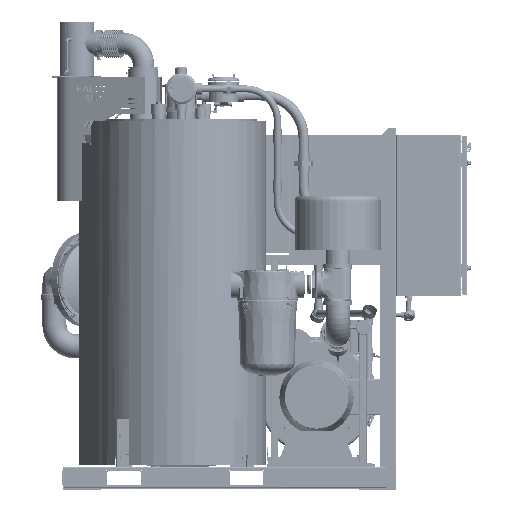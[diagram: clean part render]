
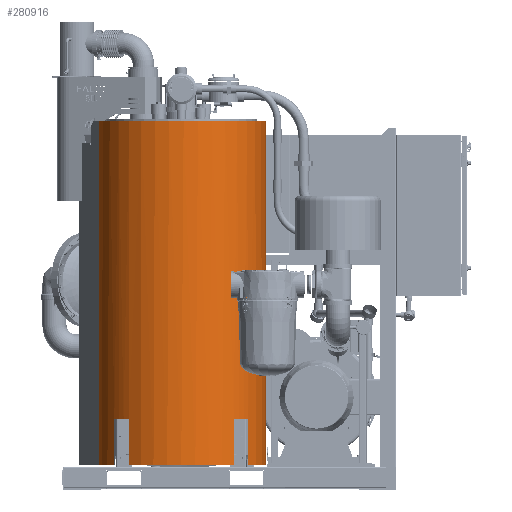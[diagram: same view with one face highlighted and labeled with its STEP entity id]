
A CAD part, top view. The second image highlights one B-rep face of the part: STEP entity #280916.
In plain terms, the highlighted cylindrical face has radius 401.625 mm (diameter 803.25 mm), a partial arc.
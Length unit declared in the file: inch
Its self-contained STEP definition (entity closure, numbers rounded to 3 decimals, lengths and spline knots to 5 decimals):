
#1845 = ORIENTED_EDGE ( 'NONE', *, *, #399140, .T. ) ;
#10452 = CARTESIAN_POINT ( 'NONE',  ( -24.63314, 24.87513, 4.67675 ) ) ;
#20501 = DIRECTION ( 'NONE',  ( -1., 0., 0. ) ) ;
#39900 = CIRCLE ( 'NONE', #308921, 15.812 ) ;
#43519 = VERTEX_POINT ( 'NONE', #106084 ) ;
#58395 = ORIENTED_EDGE ( 'NONE', *, *, #160161, .T. ) ;
#61313 = CARTESIAN_POINT ( 'NONE',  ( -9.2264, -30.62487, 1.11983 ) ) ;
#74991 = VERTEX_POINT ( 'NONE', #304999 ) ;
#80491 = DIRECTION ( 'NONE',  ( 0., 1., 0. ) ) ;
#82211 = DIRECTION ( 'NONE',  ( 0., -1., 0. ) ) ;
#83383 = DIRECTION ( 'NONE',  ( -1., 0., 0. ) ) ;
#83564 = CARTESIAN_POINT ( 'NONE',  ( -9.2264, 24.87513, 1.11983 ) ) ;
#88258 = VERTEX_POINT ( 'NONE', #554094 ) ;
#89413 = VERTEX_POINT ( 'NONE', #544496 ) ;
#103062 = LINE ( 'NONE', #483499, #121581 ) ;
#103374 = VERTEX_POINT ( 'NONE', #276760 ) ;
#104021 = VERTEX_POINT ( 'NONE', #593493 ) ;
#106084 = CARTESIAN_POINT ( 'NONE',  ( -24.63314, -39.12487, 4.67675 ) ) ;
#107557 = EDGE_CURVE ( 'NONE', #43519, #74991, #39900, .T. ) ;
#113088 = VERTEX_POINT ( 'NONE', #189012 ) ;
#121581 = VECTOR ( 'NONE', #146916, 39.37008 ) ;
#128342 = AXIS2_PLACEMENT_3D ( 'NONE', #501885, #495725, #539558 ) ;
#132270 = CARTESIAN_POINT ( 'NONE',  ( -18.98959, -13.03513, 13.55765 ) ) ;
#133241 = DIRECTION ( 'NONE',  ( 0., 1., 0. ) ) ;
#135164 = VERTEX_POINT ( 'NONE', #10452 ) ;
#138220 = CIRCLE ( 'NONE', #128342, 15.812 ) ;
#146916 = DIRECTION ( 'NONE',  ( 0., -1., 0. ) ) ;
#155819 = ORIENTED_EDGE ( 'NONE', *, *, #577843, .T. ) ;
#160161 = EDGE_CURVE ( 'NONE', #89413, #88258, #526270, .T. ) ;
#163719 = CARTESIAN_POINT ( 'NONE',  ( -21.66422, -13.03513, 10.88301 ) ) ;
#172942 = EDGE_LOOP ( 'NONE', ( #266351, #363179, #370495, #318751, #190509, #155819, #1845, #58395, #488591, #194635, #206417, #525138 ) ) ;
#180974 = DIRECTION ( 'NONE',  ( 0., -1., 0. ) ) ;
#183514 = DIRECTION ( 'NONE',  ( 0., -1., 0. ) ) ;
#186857 = CIRCLE ( 'NONE', #445806, 15.812 ) ;
#189012 = CARTESIAN_POINT ( 'NONE',  ( 3.21143, -30.62487, 10.88301 ) ) ;
#190509 = ORIENTED_EDGE ( 'NONE', *, *, #214851, .F. ) ;
#194635 = ORIENTED_EDGE ( 'NONE', *, *, #297797, .T. ) ;
#206417 = ORIENTED_EDGE ( 'NONE', *, *, #468235, .T. ) ;
#209448 = VERTEX_POINT ( 'NONE', #368932 ) ;
#214851 = EDGE_CURVE ( 'NONE', #343531, #74991, #357061, .T. ) ;
#227165 = DIRECTION ( 'NONE',  ( -1., 0., 0. ) ) ;
#227251 = CARTESIAN_POINT ( 'NONE',  ( -9.2264, 24.87513, 1.11983 ) ) ;
#231140 = EDGE_CURVE ( 'NONE', #135164, #209448, #343351, .T. ) ;
#258994 = CIRCLE ( 'NONE', #537741, 15.812 ) ;
#266351 = ORIENTED_EDGE ( 'NONE', *, *, #310092, .F. ) ;
#276760 = CARTESIAN_POINT ( 'NONE',  ( 6.5856, -39.12487, 1.11983 ) ) ;
#276824 = EDGE_CURVE ( 'NONE', #135164, #43519, #103062, .T. ) ;
#280916 = ADVANCED_FACE ( 'NONE', ( #610714 ), #420422, .T. ) ;
#281552 = CARTESIAN_POINT ( 'NONE',  ( 3.21143, 24.87513, 10.88301 ) ) ;
#283091 = VECTOR ( 'NONE', #82211, 39.37008 ) ;
#297797 = EDGE_CURVE ( 'NONE', #104021, #113088, #258994, .T. ) ;
#301623 = CARTESIAN_POINT ( 'NONE',  ( 3.21143, -39.12487, 10.88301 ) ) ;
#304999 = CARTESIAN_POINT ( 'NONE',  ( -21.66422, -39.12487, 10.88301 ) ) ;
#308921 = AXIS2_PLACEMENT_3D ( 'NONE', #560484, #133241, #610255 ) ;
#310092 = EDGE_CURVE ( 'NONE', #209448, #103374, #318346, .T. ) ;
#318145 = CARTESIAN_POINT ( 'NONE',  ( -21.66422, -30.62487, 10.88301 ) ) ;
#318346 = LINE ( 'NONE', #371161, #588404 ) ;
#318751 = ORIENTED_EDGE ( 'NONE', *, *, #107557, .T. ) ;
#321517 = CARTESIAN_POINT ( 'NONE',  ( 0.53679, 24.87513, 13.55765 ) ) ;
#334352 = AXIS2_PLACEMENT_3D ( 'NONE', #227251, #183514, #373687 ) ;
#343351 = CIRCLE ( 'NONE', #442892, 15.812 ) ;
#343531 = VERTEX_POINT ( 'NONE', #318145 ) ;
#357061 = LINE ( 'NONE', #163719, #518581 ) ;
#361664 = VECTOR ( 'NONE', #511702, 39.37008 ) ;
#363179 = ORIENTED_EDGE ( 'NONE', *, *, #231140, .F. ) ;
#368932 = CARTESIAN_POINT ( 'NONE',  ( 6.5856, 24.87513, 1.11983 ) ) ;
#370495 = ORIENTED_EDGE ( 'NONE', *, *, #276824, .T. ) ;
#371161 = CARTESIAN_POINT ( 'NONE',  ( 6.5856, 24.87513, 1.11983 ) ) ;
#373687 = DIRECTION ( 'NONE',  ( 1., 0., 0. ) ) ;
#384282 = DIRECTION ( 'NONE',  ( 0., -1., 0. ) ) ;
#399140 = EDGE_CURVE ( 'NONE', #401347, #89413, #415911, .T. ) ;
#401347 = VERTEX_POINT ( 'NONE', #607380 ) ;
#415911 = LINE ( 'NONE', #132270, #283091 ) ;
#420422 = CYLINDRICAL_SURFACE ( 'NONE', #334352, 15.812 ) ;
#423577 = DIRECTION ( 'NONE',  ( 1., 0., 0. ) ) ;
#432801 = CARTESIAN_POINT ( 'NONE',  ( -9.2264, -30.62487, 1.11983 ) ) ;
#438651 = DIRECTION ( 'NONE',  ( 0., 1., 0. ) ) ;
#438939 = EDGE_CURVE ( 'NONE', #88258, #104021, #598993, .T. ) ;
#442892 = AXIS2_PLACEMENT_3D ( 'NONE', #83564, #80491, #227165 ) ;
#445806 = AXIS2_PLACEMENT_3D ( 'NONE', #61313, #438651, #20501 ) ;
#456891 = VECTOR ( 'NONE', #384282, 39.37008 ) ;
#457497 = VERTEX_POINT ( 'NONE', #301623 ) ;
#468235 = EDGE_CURVE ( 'NONE', #113088, #457497, #521633, .T. ) ;
#483499 = CARTESIAN_POINT ( 'NONE',  ( -24.63314, 24.87513, 4.67675 ) ) ;
#486048 = AXIS2_PLACEMENT_3D ( 'NONE', #548259, #601142, #83383 ) ;
#488591 = ORIENTED_EDGE ( 'NONE', *, *, #438939, .T. ) ;
#495725 = DIRECTION ( 'NONE',  ( 0., 1., 0. ) ) ;
#501885 = CARTESIAN_POINT ( 'NONE',  ( -9.2264, -39.12487, 1.11983 ) ) ;
#511702 = DIRECTION ( 'NONE',  ( 0., 1., 0. ) ) ;
#514275 = DIRECTION ( 'NONE',  ( 0., 1., 0. ) ) ;
#518581 = VECTOR ( 'NONE', #550345, 39.37008 ) ;
#521633 = LINE ( 'NONE', #281552, #456891 ) ;
#525138 = ORIENTED_EDGE ( 'NONE', *, *, #595637, .T. ) ;
#526270 = CIRCLE ( 'NONE', #486048, 15.812 ) ;
#537741 = AXIS2_PLACEMENT_3D ( 'NONE', #432801, #514275, #423577 ) ;
#539558 = DIRECTION ( 'NONE',  ( -1., 0., 0. ) ) ;
#544496 = CARTESIAN_POINT ( 'NONE',  ( -18.98959, -39.12487, 13.55765 ) ) ;
#548259 = CARTESIAN_POINT ( 'NONE',  ( -9.2264, -39.12487, 1.11983 ) ) ;
#550345 = DIRECTION ( 'NONE',  ( 0., -1., 0. ) ) ;
#554094 = CARTESIAN_POINT ( 'NONE',  ( 0.53679, -39.12487, 13.55765 ) ) ;
#560484 = CARTESIAN_POINT ( 'NONE',  ( -9.2264, -39.12487, 1.11983 ) ) ;
#577843 = EDGE_CURVE ( 'NONE', #343531, #401347, #186857, .T. ) ;
#588404 = VECTOR ( 'NONE', #180974, 39.37008 ) ;
#593493 = CARTESIAN_POINT ( 'NONE',  ( 0.53679, -30.62487, 13.55765 ) ) ;
#595637 = EDGE_CURVE ( 'NONE', #457497, #103374, #138220, .T. ) ;
#598993 = LINE ( 'NONE', #321517, #361664 ) ;
#601142 = DIRECTION ( 'NONE',  ( 0., 1., 0. ) ) ;
#607380 = CARTESIAN_POINT ( 'NONE',  ( -18.98959, -30.62487, 13.55765 ) ) ;
#610255 = DIRECTION ( 'NONE',  ( -1., 0., 0. ) ) ;
#610714 = FACE_OUTER_BOUND ( 'NONE', #172942, .T. ) ;
